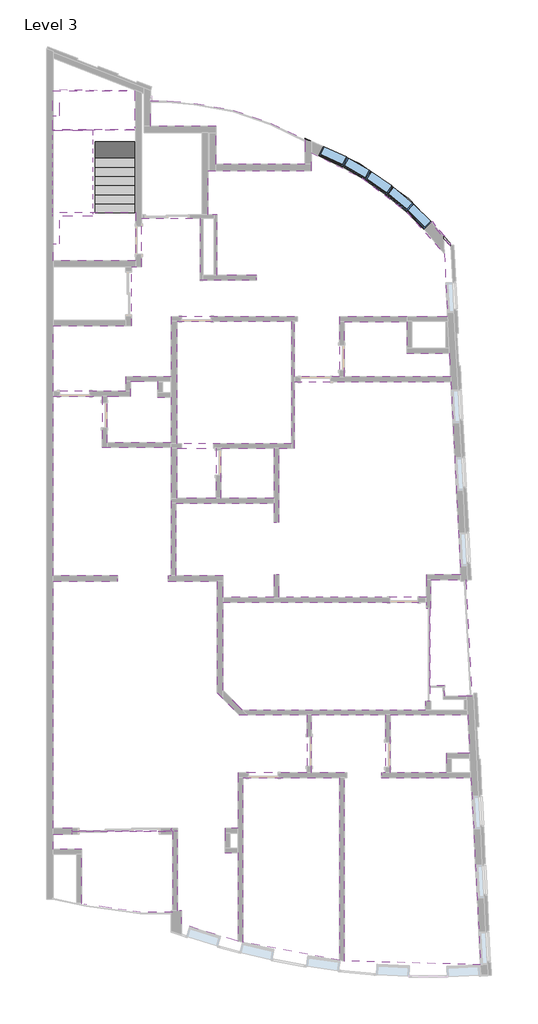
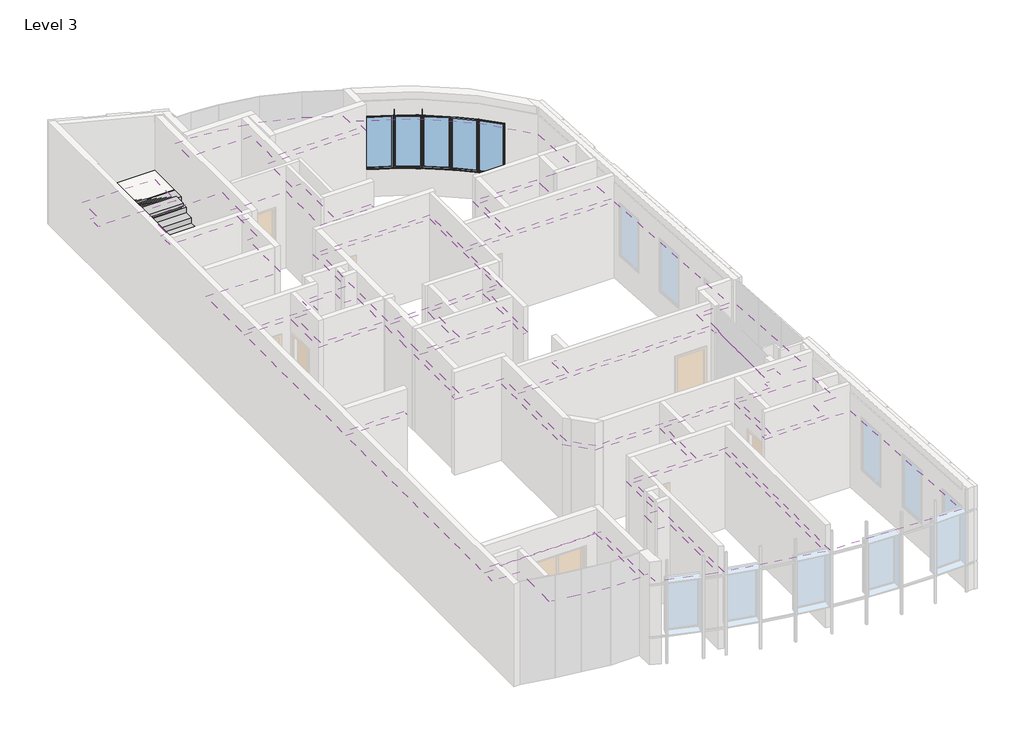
# One storey, part 5 of 5: 19 coverings, 5 windows, 2 proxies, 2 stair flights, 1 slab.
"""IFC4 building model written with IfcOpenShell, lengths in millimetres."""

import ifcopenshell
import ifcopenshell.guid

model = None  # the IFC model being written
_history = None  # IfcOwnerHistory: only IFC2X3 demands one
_inside = {}  # id of a spatial element -> (the spatial element, [elements in it])
_under = {}  # id of a project, library or spatial element -> (it, [spatial elements below it])
_declared = {}  # id of a project -> (the project, [libraries it declares])
_typed = {}  # id of a type object -> (the type object, [elements of that type])
_made_of = {}  # id of a material, layer set ... -> (it, [elements and type objects made of it])


def new_model(schema):
    """Start an empty IFC model of exactly this schema.

    Asked for "IFC4X3", IfcOpenShell would pick the latest addendum, in which some entities
    have other attributes; the version numbers below select the first issue.
    IFC2X3 requires an IfcOwnerHistory on every rooted entity: one is made here for all.
    """
    global model, _history
    if schema == "IFC4X3":
        model = ifcopenshell.file(schema_version=(4, 3, 0, 0))
    else:
        model = ifcopenshell.file(schema=schema)
    _inside.clear()
    _under.clear()
    _declared.clear()
    _typed.clear()
    _made_of.clear()
    _history = None
    if model.schema == "IFC2X3":
        org = make("IfcOrganization", Name="unknown")
        user = make(
            "IfcPersonAndOrganization",
            ThePerson=make("IfcPerson", FamilyName="unknown"),
            TheOrganization=org,
        )
        app = make(
            "IfcApplication",
            ApplicationDeveloper=org,
            Version="unknown",
            ApplicationFullName="unknown",
            ApplicationIdentifier="unknown",
        )
        _history = make(
            "IfcOwnerHistory",
            OwningUser=user,
            OwningApplication=app,
            ChangeAction="ADDED",
            CreationDate=0,
        )
    return model


def make(cls, **values):
    """One entity of the class cls with the attributes given. An attribute that is None is left unset."""
    return model.create_entity(
        cls, **{name: value for name, value in values.items() if value is not None}
    )


def rooted(cls, **values):
    """An entity with a GlobalId (a new one), such as an element, a storey or a relation."""
    return make(cls, GlobalId=ifcopenshell.guid.new(), OwnerHistory=_history, **values)


def si_unit(unit_type, name, prefix=None):
    """IfcSIUnit, for example si_unit("LENGTHUNIT", "METRE", prefix="MILLI")."""
    return make("IfcSIUnit", UnitType=unit_type, Prefix=prefix, Name=name)


def assignment(units):
    """IfcUnitAssignment: the units of a project."""
    return None if units is None else make("IfcUnitAssignment", Units=units)


def point(xyz):
    """IfcCartesianPoint."""
    return None if xyz is None else make("IfcCartesianPoint", Coordinates=xyz)


def direction(xyz):
    """IfcDirection."""
    return None if xyz is None else make("IfcDirection", DirectionRatios=xyz)


def frame(location, z_axis=None, x_axis=None):
    """IfcAxis2Placement3D, a coordinate frame: its origin and axes. An axis left out is left unset."""
    return make(
        "IfcAxis2Placement3D",
        Location=point(location),
        Axis=direction(z_axis),
        RefDirection=direction(x_axis),
    )


def frame_2d(location, x_axis=None):
    """IfcAxis2Placement2D, a coordinate frame in the plane: its origin and x axis."""
    return make(
        "IfcAxis2Placement2D", Location=point(location), RefDirection=direction(x_axis)
    )


def origin():
    """The frame at (0, 0, 0) with its axes left unset."""
    return frame((0.0, 0.0, 0.0))


def place(relative_to, where):
    """IfcLocalPlacement: puts the frame where relative to a parent placement (None: the world)."""
    return make(
        "IfcLocalPlacement", PlacementRelTo=relative_to, RelativePlacement=where
    )


def context(
    kind, dimensions, precision=None, world=None, true_north=None, identifier=None
):
    """IfcGeometricRepresentationContext, for example the 3D "Model" context."""
    return make(
        "IfcGeometricRepresentationContext",
        ContextIdentifier=identifier,
        ContextType=kind,
        CoordinateSpaceDimension=dimensions,
        Precision=precision,
        WorldCoordinateSystem=world,
        TrueNorth=true_north,
    )


def project(units=None, contexts=None):
    """IfcProject with its units and contexts."""
    return rooted(
        "IfcProject",
        Name="project",
        RepresentationContexts=contexts,
        UnitsInContext=assignment(units),
    )


def spatial(cls, under=None, at=None, **own):
    """A site, building, storey or space (cls), placed at a placement, below another one or the project."""
    s = rooted(cls, ObjectPlacement=at, **own)
    if under is not None:
        _under.setdefault(under.id(), (under, []))[1].append(s)
    return s


def polyline(points):
    """IfcPolyline through the points."""
    return make("IfcPolyline", Points=[point(p) for p in points])


def circle_curve(where, radius):
    """IfcCircle in the frame where."""
    return make("IfcCircle", Position=where, Radius=radius)


def trimmed(basis, trim1, trim2, sense, master):
    """IfcTrimmedCurve: the piece of a basis curve between two trims."""
    return make(
        "IfcTrimmedCurve",
        BasisCurve=basis,
        Trim1=trim1,
        Trim2=trim2,
        SenseAgreement=sense,
        MasterRepresentation=master,
    )


def segment(curve, same_sense, transition):
    """IfcCompositeCurveSegment."""
    return make(
        "IfcCompositeCurveSegment",
        Transition=transition,
        SameSense=same_sense,
        ParentCurve=curve,
    )


def composite_curve(segments, self_intersect=None):
    """IfcCompositeCurve: segments joined end to end."""
    return make("IfcCompositeCurve", Segments=segments, SelfIntersect=self_intersect)


def outline(outer, holes=None, kind="AREA"):
    """IfcArbitraryClosedProfileDef: a profile drawn as a closed curve; with holes, ...WithVoids."""
    if holes is None:
        return make("IfcArbitraryClosedProfileDef", ProfileType=kind, OuterCurve=outer)
    return make(
        "IfcArbitraryProfileDefWithVoids",
        ProfileType=kind,
        OuterCurve=outer,
        InnerCurves=holes,
    )


def extrude(swept, where, along, depth):
    """IfcExtrudedAreaSolid: the profile swept, set in the frame where, extruded along a direction by depth."""
    return make(
        "IfcExtrudedAreaSolid",
        SweptArea=swept,
        Position=where,
        ExtrudedDirection=direction(along),
        Depth=depth,
    )


def faces_of(points, faces, orient=None, outer=None):
    """IfcFace entities. A face is a list of loops; a loop is a list of indices into points, from 0.

    orient and outer hold one flag for each loop. By default every Orientation is true, the
    first loop of a face is its IfcFaceOuterBound and the others are IfcFaceBound.
    """
    made = []
    for i, loops in enumerate(faces):
        bounds = []
        for j, loop in enumerate(loops):
            is_outer = j == 0 if outer is None else outer[i][j]
            bounds.append(
                make(
                    "IfcFaceOuterBound" if is_outer else "IfcFaceBound",
                    Bound=make("IfcPolyLoop", Polygon=[points[k] for k in loop]),
                    Orientation=True if orient is None else orient[i][j],
                )
            )
        made.append(make("IfcFace", Bounds=bounds))
    return made


def faceted_brep(points, faces, orient=None, outer=None, voids=None):
    """IfcFacetedBrep: a solid bounded by flat faces; with voids (closed shells), ...WithVoids."""
    shared = [point(p) for p in points]
    hull = make("IfcClosedShell", CfsFaces=faces_of(shared, faces, orient, outer))
    if voids is None:
        return make("IfcFacetedBrep", Outer=hull)
    return make(
        "IfcFacetedBrepWithVoids",
        Outer=hull,
        Voids=[
            make(cls, CfsFaces=faces_of(shared, fs, o, b)) for cls, fs, o, b in voids
        ],
    )


def shape(context_of_items, identifier, shape_type, items):
    """IfcShapeRepresentation: the items that make up one representation, for example the "Body"."""
    return make(
        "IfcShapeRepresentation",
        ContextOfItems=context_of_items,
        RepresentationIdentifier=identifier,
        RepresentationType=shape_type,
        Items=items,
    )


def source(mapping_origin, context_of_items, identifier, shape_type, items):
    """IfcRepresentationMap: a shape defined once, which mapped items show again and again."""
    return make(
        "IfcRepresentationMap",
        MappingOrigin=mapping_origin,
        MappedRepresentation=shape(context_of_items, identifier, shape_type, items),
    )


def transform(
    local_origin,
    x_axis=None,
    y_axis=None,
    z_axis=None,
    scale=None,
    scale2=None,
    scale3=None,
    uniform=True,
):
    """IfcCartesianTransformationOperator3D, or its non-uniform kind. x_axis, y_axis, z_axis: its Axis1, 2, 3."""
    if uniform:
        return make(
            "IfcCartesianTransformationOperator3D",
            Axis1=direction(x_axis),
            Axis2=direction(y_axis),
            LocalOrigin=point(local_origin),
            Scale=scale,
            Axis3=direction(z_axis),
        )
    return make(
        "IfcCartesianTransformationOperator3DnonUniform",
        Axis1=direction(x_axis),
        Axis2=direction(y_axis),
        LocalOrigin=point(local_origin),
        Scale=scale,
        Axis3=direction(z_axis),
        Scale2=scale2,
        Scale3=scale3,
    )


def mapped(mapping_source, mapping_target):
    """IfcMappedItem: shows the shape of a source again, moved by a transform."""
    return make(
        "IfcMappedItem", MappingSource=mapping_source, MappingTarget=mapping_target
    )


def made_of(thing, what):
    """Note that an element or type object is made of a material, layer set ...; save() writes the relation."""
    if what is not None:
        _made_of.setdefault(what.id(), (what, []))[1].append(thing)
    return thing


def element(
    cls,
    number,
    at=None,
    inside=None,
    cuts=None,
    type_object=None,
    material=None,
    context=None,
    identifier="Body",
    shape_type=None,
    held_by="IfcProductDefinitionShape",
    body=None,
    shapes=None,
    **own,
):
    """One element of the class cls, such as IfcWall. Its Tag is "e" and its number.

    at: its placement. inside: the storey or other place that contains it. cuts: it is an
    opening in that element (IfcRelVoidsElement). A single representation is given by context,
    identifier, shape_type and body (its items); several are given by shapes. held_by: the class
    of the entity that holds the representations. save() writes the other relations.
    """
    e = rooted(cls, Tag="e%d" % number, ObjectPlacement=at, **own)
    if body is not None:
        shapes = [shape(context, identifier, shape_type, body)]
    if shapes is not None:
        e.Representation = make(held_by, Representations=shapes)
    if inside is not None:
        _inside.setdefault(inside.id(), (inside, []))[1].append(e)
    if cuts is not None:
        rooted(
            "IfcRelVoidsElement", RelatingBuildingElement=cuts, RelatedOpeningElement=e
        )
    if type_object is not None:
        _typed.setdefault(type_object.id(), (type_object, []))[1].append(e)
    return made_of(e, material)


def aggregate(whole, parts):
    """IfcRelAggregates: a whole, such as a stair, and the parts it consists of."""
    return rooted("IfcRelAggregates", RelatingObject=whole, RelatedObjects=parts)


def save(model, path):
    """Write the relations noted so far, then the file.

    IfcRelAggregates (storeys below a building ...), IfcRelContainedInSpatialStructure (elements
    in a storey), IfcRelDefinesByType, IfcRelAssociatesMaterial and IfcRelDeclares: one each for
    every whole, place, type object, material and project.
    """
    for whole, parts in _under.values():
        aggregate(whole, parts)
    for where, things in _inside.values():
        rooted(
            "IfcRelContainedInSpatialStructure",
            RelatedElements=things,
            RelatingStructure=where,
        )
    for kind, things in _typed.values():
        rooted("IfcRelDefinesByType", RelatedObjects=things, RelatingType=kind)
    for what, things in _made_of.values():
        rooted("IfcRelAssociatesMaterial", RelatedObjects=things, RelatingMaterial=what)
    for by, libraries in _declared.values():
        rooted("IfcRelDeclares", RelatingContext=by, RelatedDefinitions=libraries)
    model.write(path)


def m_fixed_0815_x_1830mm_2_6a11e188(model_context):
    return source(origin(), model_context, "Body", "SweptSolid", [
        extrude(outline(polyline([(-344.5, 138.0), (344.5, 138.0), (344.5, 126.0), (-344.5, 126.0), (-344.5, 138.0)])), frame((0.0, 0.0, 368.0), z_axis=(0.0, 0.0, 1.0), x_axis=(1.0, 0.0, 0.0)), (0.0, 0.0, 1.0), 1704.0),
        extrude(outline(polyline([(2116.0, -388.5), (324.0, -388.5), (324.0, 388.5), (2116.0, 388.5), (2116.0, -388.5)]), holes=[polyline([(2072.0, -344.5), (2072.0, 344.5), (368.0, 344.5), (368.0, -344.5), (2072.0, -344.5)])]), frame((0.0, 110.0, 0.0), z_axis=(0.0, 1.0, 0.0), x_axis=(0.0, 0.0, 1.0)), (0.0, 0.0, 1.0), 44.0),
        extrude(outline(polyline([(2135.0, -407.5), (305.0, -407.5), (305.0, 407.5), (2135.0, 407.5), (2135.0, -407.5)]), holes=[polyline([(2116.0, -388.5), (2116.0, 388.5), (324.0, 388.5), (324.0, -388.5), (2116.0, -388.5)])]), frame((0.0, 110.0, 0.0), z_axis=(0.0, 1.0, 0.0), x_axis=(0.0, 0.0, 1.0)), (0.0, 0.0, 1.0), 63.0),
        extrude(outline(polyline([(2135.0, -407.5), (305.0, -407.5), (305.0, 407.5), (2135.0, 407.5), (2135.0, -407.5)]), holes=[polyline([(2103.0, -375.5), (2103.0, 375.5), (337.0, 375.5), (337.0, -375.5), (2103.0, -375.5)])]), frame((0.0, -147.0, 0.0), z_axis=(0.0, 1.0, 0.0), x_axis=(0.0, 0.0, 1.0)), (0.0, 0.0, 1.0), 257.0),
    ])


model = new_model("IFC4")

# Units and contexts
model_context = context("Model", 3, world=origin())
ifc_project = project(units=[si_unit("LENGTHUNIT", "METRE", prefix="MILLI")], contexts=[model_context])

# Site, building, storey
site = spatial("IfcSite", under=ifc_project)
building = spatial("IfcBuilding", under=site)
storey = spatial("IfcBuildingStorey", under=building, Name="Level 3", Elevation=11500.0)

# Proxies
placement = place(None, origin())
element("IfcBuildingElementProxy", 1, Name="Reveal", ObjectType="Reveal", at=placement, inside=storey, context=model_context, shape_type="SweptSolid", body=[
    extrude(outline(composite_curve([segment(trimmed(circle_curve(frame_2d((4535.6080259, 3399.2748166)), 9525.0), [point((12124.5482533, 9155.45508))], [point((7662.3072504, 12396.4619859))], True, "CARTESIAN"), True, "CONTINUOUS"), segment(polyline([(7662.3072504, 12396.4619859), (7662.3072504, 12449.3785154)]), True, "CONTINUOUS"), segment(trimmed(circle_curve(frame_2d((4535.6080259, 3399.2748166)), 9575.0), [point((7662.3072504, 12449.3785154))], [point((12120.0590293, 9243.6505726))], False, "CARTESIAN"), True, "CONTINUOUS"), segment(polyline([(12120.0590293, 9243.6505726), (12124.5482533, 9155.45508)]), True, "CONTINUOUS")], self_intersect=False)), frame((0.0, 0.0, 12375.0), z_axis=(0.0, 0.0, 1.0), x_axis=(1.0, 0.0, 0.0)), (0.0, 0.0, 1.0), 50.0),
])
element("IfcBuildingElementProxy", 2, Name="Reveal", ObjectType="Reveal", at=placement, inside=storey, context=model_context, shape_type="SweptSolid", body=[
    extrude(outline(composite_curve([segment(trimmed(circle_curve(frame_2d((4535.6080259, 3399.2748166)), 9525.0), [point((12124.5482533, 9155.45508))], [point((11527.266896, 9867.8396686))], True, "CARTESIAN"), True, "CONTINUOUS"), segment(polyline([(11527.266896, 9867.8396686), (11562.5143185, 9903.3668328)]), True, "CONTINUOUS"), segment(trimmed(circle_curve(frame_2d((4535.6080259, 3399.2748166)), 9575.0), [point((11562.5143185, 9903.3668328))], [point((12120.0590293, 9243.6505726))], False, "CARTESIAN"), True, "CONTINUOUS"), segment(polyline([(12120.0590293, 9243.6505726), (12124.5482533, 9155.45508)]), True, "CONTINUOUS")], self_intersect=False)), frame((0.0, 0.0, 14195.0), z_axis=(0.0, 0.0, 1.0), x_axis=(1.0, 0.0, 0.0)), (0.0, 0.0, 1.0), 50.0),
    extrude(outline(composite_curve([segment(trimmed(circle_curve(frame_2d((4535.6080259, 3399.2748166)), 9525.0), [point((8210.516289, 12186.8042907))], [point((7662.3072504, 12396.4619859))], True, "CARTESIAN"), True, "CONTINUOUS"), segment(polyline([(7662.3072504, 12396.4619859), (7662.3072504, 12449.3785154)]), True, "CONTINUOUS"), segment(trimmed(circle_curve(frame_2d((4535.6080259, 3399.2748166)), 9575.0), [point((7662.3072504, 12449.3785154))], [point((8231.7823405, 12232.1067767))], False, "CARTESIAN"), True, "CONTINUOUS"), segment(polyline([(8231.7823405, 12232.1067767), (8210.516289, 12186.8042907)]), True, "CONTINUOUS")], self_intersect=False)), frame((0.0, 0.0, 14195.0), z_axis=(0.0, 0.0, 1.0), x_axis=(1.0, 0.0, 0.0)), (0.0, 0.0, 1.0), 50.0),
    extrude(outline(composite_curve([segment(trimmed(circle_curve(frame_2d((4535.6080259, 3399.2748166)), 9525.0), [point((8957.9716481, 11835.4069275))], [point((8948.2742549, 11840.4833647))], True, "CARTESIAN"), True, "CONTINUOUS"), segment(polyline([(8948.2742549, 11840.4833647), (8969.5403064, 11885.7858507)]), True, "CONTINUOUS"), segment(trimmed(circle_curve(frame_2d((4535.6080259, 3399.2748166)), 9575.0), [point((8969.5403064, 11885.7858507))], [point((8983.0823429, 11878.6968016))], False, "CARTESIAN"), True, "CONTINUOUS"), segment(polyline([(8983.0823429, 11878.6968016), (8957.9716481, 11835.4069275)]), True, "CONTINUOUS")], self_intersect=False)), frame((0.0, 0.0, 14195.0), z_axis=(0.0, 0.0, 1.0), x_axis=(1.0, 0.0, 0.0)), (0.0, 0.0, 1.0), 50.0),
    extrude(outline(composite_curve([segment(trimmed(circle_curve(frame_2d((4535.6080259, 3399.2748166)), 9525.0), [point((9668.2107942, 11423.1151579))], [point((9662.9539178, 11426.4753937))], True, "CARTESIAN"), True, "CONTINUOUS"), segment(polyline([(9662.9539178, 11426.4753937), (9688.0646126, 11469.7652678)]), True, "CONTINUOUS"), segment(trimmed(circle_curve(frame_2d((4535.6080259, 3399.2748166)), 9575.0), [point((9688.0646126, 11469.7652678))], [point((9696.9570845, 11464.0811314))], False, "CARTESIAN"), True, "CONTINUOUS"), segment(polyline([(9696.9570845, 11464.0811314), (9668.2107942, 11423.1151579)]), True, "CONTINUOUS")], self_intersect=False)), frame((0.0, 0.0, 14195.0), z_axis=(0.0, 0.0, 1.0), x_axis=(1.0, 0.0, 0.0)), (0.0, 0.0, 1.0), 50.0),
    extrude(outline(composite_curve([segment(trimmed(circle_curve(frame_2d((4535.6080259, 3399.2748166)), 9525.0), [point((10340.2860207, 10951.1844014))], [point((10335.3479854, 10954.9773917))], True, "CARTESIAN"), True, "CONTINUOUS"), segment(polyline([(10335.3479854, 10954.9773917), (10364.0942756, 10995.9433652)]), True, "CONTINUOUS"), segment(trimmed(circle_curve(frame_2d((4535.6080259, 3399.2748166)), 9575.0), [point((10364.0942756, 10995.9433652))], [point((10372.454166, 10989.521989))], False, "CARTESIAN"), True, "CONTINUOUS"), segment(polyline([(10372.454166, 10989.521989), (10340.2860207, 10951.1844014)]), True, "CONTINUOUS")], self_intersect=False)), frame((0.0, 0.0, 14195.0), z_axis=(0.0, 0.0, 1.0), x_axis=(1.0, 0.0, 0.0)), (0.0, 0.0, 1.0), 50.0),
])

# Coverings
element("IfcCovering", 3, ObjectType="600 x 600mm Grid", at=placement, inside=storey, context=model_context, shape_type="SweptSolid", body=[
    extrude(outline(polyline([(3749.9578779, 6844.2927825), (7249.9578779, 6844.2927825), (7249.9578779, 3106.8778064), (3749.9578779, 3106.8778064), (3749.9578779, 6844.2927825)])), frame((0.0, 0.0, 14100.0), z_axis=(0.0, 0.0, 1.0), x_axis=(1.0, 0.0, 0.0)), (0.0, 0.0, 1.0), 52.0),
])
element("IfcCovering", 4, ObjectType="600 x 600mm Grid", at=placement, inside=storey, context=model_context, shape_type="SweptSolid", body=[
    extrude(outline(polyline([(10788.049349, 5875.0705769), (12091.2636332, 5875.0705769), (12128.2063311, 5149.2927029), (8869.9578779, 5149.2927029), (8869.9578779, 6830.3684627), (10788.049349, 6830.3684627), (10788.049349, 5875.0705769)])), frame((0.0, 0.0, 14100.0), z_axis=(0.0, 0.0, 1.0), x_axis=(1.0, 0.0, 0.0)), (0.0, 0.0, 1.0), 52.0),
])
element("IfcCovering", 5, ObjectType="600 x 600mm Grid", at=placement, inside=storey, context=model_context, shape_type="SweptSolid", body=[
    extrude(outline(composite_curve([segment(polyline([(10005.6168737, -7123.7981953), (12752.9168737, -7123.7981953), (13044.0399551, -12843.2151043)]), True, "CONTINUOUS"), segment(trimmed(circle_curve(frame_2d((11609.3245394, 10843.3737526)), 23730.0), [point((13044.0399551, -12843.2151043))], [point((8870.2907737, -12728.0198004))], False, "CARTESIAN"), True, "CONTINUOUS"), segment(polyline([(8870.2907737, -12728.0198004), (8870.2907737, -6973.7981953), (7870.2909314, -6973.7981953), (7870.2909314, -5198.7981953), (10130.2907737, -5198.7981953), (10130.2907737, -6973.7981953), (10005.6168737, -6973.7981953), (10005.6168737, -7123.7981953)]), True, "CONTINUOUS")], self_intersect=False)), frame((0.0, 0.0, 14100.0), z_axis=(0.0, 0.0, 1.0), x_axis=(1.0, 0.0, 0.0)), (0.0, 0.0, 1.0), 52.0),
])
element("IfcCovering", 6, ObjectType="600 x 600mm Grid", at=placement, inside=storey, context=model_context, shape_type="SweptSolid", body=[
    extrude(outline(polyline([(10280.2907737, -5198.7981953), (12654.9327714, -5198.7981953), (12714.7412494, -6373.7981953), (11997.4732011, -6373.7981953), (11997.4732011, -6973.7981953), (10280.2907737, -6973.7981953), (10280.2907737, -5198.7981953)])), frame((0.0, 0.0, 14100.0), z_axis=(0.0, 0.0, 1.0), x_axis=(1.0, 0.0, 0.0)), (0.0, 0.0, 1.0), 52.0),
])
element("IfcCovering", 7, ObjectType="600 x 600mm Grid", at=placement, inside=storey, context=model_context, shape_type="SweptSolid", body=[
    extrude(outline(polyline([(5089.9578779, 1426.8778064), (5089.9578779, 2956.8778064), (6719.9578779, 2956.8778064), (6719.9578779, 1426.8778064), (5089.9578779, 1426.8778064)])), frame((0.0, 0.0, 14100.0), z_axis=(0.0, 0.0, 1.0), x_axis=(1.0, 0.0, 0.0)), (0.0, 0.0, 1.0), 52.0),
])
element("IfcCovering", 8, ObjectType="600 x 600mm Grid", at=placement, inside=storey, context=model_context, shape_type="SweptSolid", body=[
    extrude(outline(polyline([(3569.9578779, 4516.8864855), (3569.9578779, 3136.8778064), (1599.9578776, 3136.8778064), (1599.9578776, 4556.8830582), (2319.9578779, 4556.8830582), (2319.9578779, 5006.8860701), (3149.9574416, 5006.8860701), (3149.9574416, 4516.8864855), (3569.9578779, 4516.8864855)])), frame((0.0, 0.0, 14100.0), z_axis=(0.0, 0.0, 1.0), x_axis=(1.0, 0.0, 0.0)), (0.0, 0.0, 1.0), 52.0),
])
element("IfcCovering", 9, ObjectType="600 x 600mm Grid", at=placement, inside=storey, context=model_context, shape_type="SweptSolid", body=[
    extrude(outline(composite_curve([segment(polyline([(11936.5482631, 8914.6155682), (12034.2942913, 6994.2927825), (10782.6929286, 6994.2927825), (10782.6929286, 6980.3684627), (8719.9578779, 6980.3684627), (8719.9578779, 5149.2927029), (7349.9578779, 5149.2927029), (7349.9578779, 6994.2927825), (3569.9578779, 6994.2927825), (3569.9578779, 5156.8860701), (2169.9578779, 5156.8860701), (2169.9578779, 4706.8830582), (-50.0421304, 4706.8830582), (-50.0421304, 6706.8748838), (2350.0654712, 6706.8748838), (2350.0654712, 8516.8748746), (2661.8607589, 8516.8748746), (2661.8607589, 10006.8748959), (4449.2779066, 10006.8748959), (4449.2779066, 8112.262158), (6174.9402277, 8112.262158), (6174.9402277, 8262.262158), (4979.9402277, 8262.262158), (4979.9402277, 10106.8748959), (4699.9587688, 10106.8748959), (4699.9587688, 11454.5991251), (7862.3072504, 11454.5991251), (7862.3072504, 12008.9189597)]), True, "CONTINUOUS"), segment(trimmed(circle_curve(frame_2d((4535.6080259, 3399.2748166)), 9230.0), [point((7862.3072504, 12008.9189597))], [point((11936.5482631, 8914.6155682))], False, "CARTESIAN"), True, "CONTINUOUS")], self_intersect=False)), frame((0.0, 0.0, 14100.0), z_axis=(0.0, 0.0, 1.0), x_axis=(1.0, 0.0, 0.0)), (0.0, 0.0, 1.0), 52.0),
])
element("IfcCovering", 10, ObjectType="600 x 600mm Grid", at=placement, inside=storey, context=model_context, shape_type="SweptSolid", body=[
    extrude(outline(composite_curve([segment(trimmed(circle_curve(frame_2d((11609.3245394, 10843.3737526)), 23730.0), [point((8720.2907737, -12710.1054788))], [point((5770.2907737, -12157.0302587))], False, "CARTESIAN"), True, "CONTINUOUS"), segment(polyline([(5770.2907737, -12157.0302587), (5770.2907737, -7123.7981953), (8720.2907737, -7123.7981953), (8720.2907737, -12710.1054788)]), True, "CONTINUOUS")], self_intersect=False)), frame((0.0, 0.0, 14100.0), z_axis=(0.0, 0.0, 1.0), x_axis=(1.0, 0.0, 0.0)), (0.0, 0.0, 1.0), 52.0),
])
element("IfcCovering", 11, ObjectType="600 x 600mm Grid", at=placement, inside=storey, context=model_context, shape_type="SweptSolid", body=[
    extrude(outline(composite_curve([segment(polyline([(-50.0421304, -8662.2362629), (-50.0421304, -1113.1221936), (1933.9578781, -1113.1221936), (1933.9578781, -933.1221936), (-50.0421304, -933.1221936), (-50.0421304, 4556.8830582), (1449.9578776, 4556.8830582), (1449.9578776, 2986.8778064), (3569.9578779, 2986.8778064), (3569.9578779, 1351.8778064), (3569.9578779, -933.1221936), (3473.9578779, -933.1221936), (3473.9578779, -1113.1221936), (4969.9578778, -1113.1221936), (4969.9578778, -4517.9715169), (5643.7897147, -5198.7981953), (7720.2909314, -5198.7981953), (7720.2909314, -6973.7981953), (5620.2907737, -6973.7981953), (5620.2907737, -8662.29082), (5223.5699518, -8662.29082), (5223.5699518, -9422.4272222), (5620.2907737, -9422.4272222), (5620.2907737, -12118.4287584)]), True, "CONTINUOUS"), segment(trimmed(circle_curve(frame_2d((11609.3245394, 10843.3737526)), 23730.0), [point((5620.2907737, -12118.4287584))], [point((3880.252741, -11592.6318887))], False, "CARTESIAN"), True, "CONTINUOUS"), segment(polyline([(3880.252741, -11592.6318887), (3880.252741, -11189.3160932), (3760.252741, -11189.3160932), (3760.252741, -8757.0181124), (3600.5670169, -8757.0181124), (3600.5670169, -8673.6141586), (3557.6788606, -8673.6141586), (3557.6788606, -8757.0181124), (529.9578696, -8757.0181124), (529.9578696, -8662.2362629), (-50.0421304, -8662.2362629)]), True, "CONTINUOUS")], self_intersect=False)), frame((0.0, 0.0, 14100.0), z_axis=(0.0, 0.0, 1.0), x_axis=(1.0, 0.0, 0.0)), (0.0, 0.0, 1.0), 52.0),
])
element("IfcCovering", 12, ObjectType="600 x 600mm Grid", at=placement, inside=storey, context=model_context, shape_type="SweptSolid", body=[
    extrude(outline(polyline([(-50.0421304, -9312.1185157), (-50.0421304, -8842.2362629), (529.9578696, -8842.2362629), (529.9578696, -8757.0181124), (3610.252741, -8757.0181124), (3610.252741, -11236.9456492), (2620.252741, -11236.9456492), (1746.4600136, -11114.1420899), (974.05092, -11005.5870712), (829.9393362, -10974.9552084), (829.9393362, -9312.1185157), (-50.0421304, -9312.1185157)])), frame((0.0, 0.0, 14100.0), z_axis=(0.0, 0.0, 1.0), x_axis=(1.0, 0.0, 0.0)), (0.0, 0.0, 1.0), 52.0),
])
element("IfcCovering", 13, ObjectType="600 x 600mm Grid", at=placement, inside=storey, context=model_context, shape_type="SweptSolid", body=[
    extrude(outline(polyline([(11529.9578778, -1933.9547288), (11529.9578778, -1053.8603265), (12594.2109056, -1053.8603265), (12655.9511875, -2266.8126319), (12714.9198118, -3425.3128267), (12776.048406, -4626.2478876), (11949.9334783, -4624.2050678), (11933.314431, -4297.7065316), (11490.9685725, -4320.222304), (11490.9685725, -1933.9547288), (11529.9578778, -1933.9547288)])), frame((0.0, 0.0, 14100.0), z_axis=(0.0, 0.0, 1.0), x_axis=(1.0, 0.0, 0.0)), (0.0, 0.0, 1.0), 52.0),
])
element("IfcCovering", 14, ObjectType="600 x 600mm Grid", at=placement, inside=storey, context=model_context, shape_type="SweptSolid", body=[
    extrude(outline(polyline([(5149.9578778, -4443.9569428), (5149.9578778, -1753.9547298), (11379.9578778, -1753.9547298), (11379.9578778, -1933.9547288), (11490.9685725, -1933.9547288), (11490.9685725, -4783.8440392), (11349.9578778, -4783.8440392), (11349.9578778, -5048.7981953), (5748.5849662, -5048.7981953), (5149.9578778, -4443.9569428)])), frame((0.0, 0.0, 14100.0), z_axis=(0.0, 0.0, 1.0), x_axis=(1.0, 0.0, 0.0)), (0.0, 0.0, 1.0), 52.0),
])
element("IfcCovering", 15, ObjectType="600 x 600mm Grid", at=placement, inside=storey, context=model_context, shape_type="SweptSolid", body=[
    extrude(outline(polyline([(7349.9578779, 2956.8778064), (7349.9578779, 4999.2927029), (12135.8414559, 4999.2927029), (12436.3168588, -903.8603265), (11379.9578778, -903.8603265), (11379.9578778, -1603.9547298), (6869.9578779, -1603.9547298), (6869.9578779, -903.9547298), (6719.9578779, -903.9547298), (6719.9578779, -1603.9547298), (5149.9578778, -1603.9547298), (5149.9578778, -933.1221936), (3719.9578779, -933.1221936), (3719.9578779, 1276.8778064), (6719.9578779, 1276.8778064), (6719.9578779, 696.0452702), (6869.9578779, 696.0452702), (6869.9578779, 2956.8778064), (7349.9578779, 2956.8778064)])), frame((0.0, 0.0, 14100.0), z_axis=(0.0, 0.0, 1.0), x_axis=(1.0, 0.0, 0.0)), (0.0, 0.0, 1.0), 52.0),
])
element("IfcCovering", 16, ObjectType="600 x 600mm Grid", at=placement, inside=storey, context=model_context, shape_type="SweptSolid", body=[
    extrude(outline(polyline([(3749.9578779, 1426.8778064), (3749.9578779, 2956.8778064), (4939.9578779, 2956.8778064), (4939.9578779, 1426.8778064), (3749.9578779, 1426.8778064)])), frame((0.0, 0.0, 14100.0), z_axis=(0.0, 0.0, 1.0), x_axis=(1.0, 0.0, 0.0)), (0.0, 0.0, 1.0), 52.0),
])
element("IfcCovering", 17, ObjectType="600 x 600mm Grid", at=placement, inside=storey, context=model_context, shape_type="SweptSolid", body=[
    extrude(outline(polyline([(7662.3072504, 12409.1006238), (7662.3072504, 11654.5991251), (4949.6116933, 11654.5991251), (4949.6116933, 12811.9409286), (2939.9587442, 12811.9409286), (2939.9587442, 13599.3570533), (3438.1784244, 13599.3570533), (4275.7806873, 13521.2545862), (5477.246146, 13309.4038095), (6630.7788082, 12912.210661), (7662.3072504, 12409.1006238)])), frame((0.0, 0.0, 14100.0), z_axis=(0.0, 0.0, 1.0), x_axis=(1.0, 0.0, 0.0)), (0.0, 0.0, 1.0), 52.0),
])
element("IfcCovering", 18, ObjectType="600 x 600mm Grid", at=placement, inside=storey, context=model_context, shape_type="SweptSolid", body=[
    extrude(outline(composite_curve([segment(polyline([(11936.5482631, 8914.6155682), (12034.2942913, 6994.2927825), (10782.6929286, 6994.2927825), (10782.6929286, 6980.3684627), (8719.9578779, 6980.3684627), (8719.9578779, 5149.2927029), (7349.9578779, 5149.2927029), (7349.9578779, 6994.2927825), (3569.9578779, 6994.2927825), (3569.9578779, 5156.8860701), (2169.9578779, 5156.8860701), (2169.9578779, 4706.8830582), (-50.0421304, 4706.8830582), (-50.0421304, 6706.8748838), (2350.0654712, 6706.8748838), (2350.0654712, 8516.8748746), (2661.8607589, 8516.8748746), (2661.8607589, 10006.8748959), (4449.2779066, 10006.8748959), (4449.2779066, 8112.262158), (6174.9402277, 8112.262158), (6174.9402277, 8262.262158), (4979.9402277, 8262.262158), (4979.9402277, 10106.8748959), (4699.9587688, 10106.8748959), (4699.9587688, 11454.5991251), (7862.3072504, 11454.5991251), (7862.3072504, 12008.9189597)]), True, "CONTINUOUS"), segment(trimmed(circle_curve(frame_2d((4535.6080259, 3399.2748166)), 9230.0), [point((7862.3072504, 12008.9189597))], [point((11936.5482631, 8914.6155682))], False, "CARTESIAN"), True, "CONTINUOUS")], self_intersect=False)), frame((0.0, 0.0, 14100.0), z_axis=(0.0, 0.0, 1.0), x_axis=(1.0, 0.0, 0.0)), (0.0, 0.0, 1.0), 52.0),
])
element("IfcCovering", 19, ObjectType="600 x 600mm Grid", at=placement, inside=storey, context=model_context, shape_type="SweptSolid", body=[
    extrude(outline(composite_curve([segment(polyline([(11936.5482631, 8914.6155682), (12034.2942913, 6994.2927825), (10782.6929286, 6994.2927825), (10782.6929286, 6980.3684627), (8719.9578779, 6980.3684627), (8719.9578779, 5149.2927029), (7349.9578779, 5149.2927029), (7349.9578779, 6994.2927825), (3569.9578779, 6994.2927825), (3569.9578779, 5156.8860701), (2169.9578779, 5156.8860701), (2169.9578779, 4706.8830582), (-50.0421304, 4706.8830582), (-50.0421304, 6706.8748838), (2350.0654712, 6706.8748838), (2350.0654712, 8516.8748746), (2661.8607589, 8516.8748746), (2661.8607589, 10006.8748959), (4449.2779066, 10006.8748959), (4449.2779066, 8112.262158), (6174.9402277, 8112.262158), (6174.9402277, 8262.262158), (4979.9402277, 8262.262158), (4979.9402277, 10106.8748959), (4699.9587688, 10106.8748959), (4699.9587688, 11454.5991251), (7862.3072504, 11454.5991251), (7862.3072504, 12008.9189597)]), True, "CONTINUOUS"), segment(trimmed(circle_curve(frame_2d((4535.6080259, 3399.2748166)), 9230.0), [point((7862.3072504, 12008.9189597))], [point((11936.5482631, 8914.6155682))], False, "CARTESIAN"), True, "CONTINUOUS")], self_intersect=False)), frame((0.0, 0.0, 14100.0), z_axis=(0.0, 0.0, 1.0), x_axis=(1.0, 0.0, 0.0)), (0.0, 0.0, 1.0), 52.0),
])
element("IfcCovering", 20, ObjectType="600 x 600mm Grid", at=placement, inside=storey, context=model_context, shape_type="SweptSolid", body=[
    extrude(outline(polyline([(2481.8607589, 10179.4957281), (2481.8607589, 8696.8748746), (-50.0421304, 8696.8748746), (-50.0421304, 9219.4957281), (149.9709975, 9219.4957281), (149.9709975, 10179.4957281), (2481.8607589, 10179.4957281)])), frame((0.0, 0.0, 14650.0), z_axis=(0.0, 0.0, 1.0), x_axis=(1.0, 0.0, 0.0)), (0.0, 0.0, 1.0), 52.0),
])
element("IfcCovering", 21, ObjectType="600 x 600mm Grid", at=placement, inside=storey, context=model_context, shape_type="SweptSolid", body=[
    extrude(outline(polyline([(2454.9743495, 13908.8107611), (2454.9743495, 12688.8107611), (2439.3607589, 12688.8107611), (2439.3607589, 12708.2107611), (-17.3392411, 12708.2107611), (-17.3392411, 12688.8107611), (-60.0421304, 12688.8107611), (-60.0421304, 13143.419171), (149.9709975, 13143.419171), (149.9709975, 13943.419171), (2454.9743495, 13908.8107611)])), frame((0.0, 0.0, 12850.0), z_axis=(0.0, 0.0, 1.0), x_axis=(1.0, 0.0, 0.0)), (0.0, 0.0, 1.0), 52.0),
])

# Slab
element("IfcSlab", 22, ObjectType="220mm Thickness", at=placement, inside=storey, context=model_context, shape_type="Brep", body=[
    faceted_brep([(2454.9743495, 13908.8107611, 13157.8947368), (-60.0421304, 13908.8107611, 13157.8947368), (-60.0421304, 12688.8107611, 13157.8947368), (1159.9578696, 12688.8107611, 13157.8947368), (1233.3868495, 12688.8107611, 13157.8947368), (1233.3868495, 12798.8107611, 13157.8947368), (2454.9743495, 12798.8107611, 13157.8947368), (2454.9743495, 13908.8107611, 12937.8947368), (2454.9743495, 12798.8107611, 13047.8947368), (2454.9743495, 12698.8107611, 13047.8947368), (2454.9743495, 12698.8107611, 12937.8947368), (-60.0421304, 13908.8107611, 12937.8947368), (-60.0421304, 12688.8107611, 12937.8947368), (1159.9578696, 12688.8107611, 12937.8947368), (1233.3868495, 12688.8107611, 12937.8947368), (1233.3868495, 12698.8107611, 12937.8947368), (1233.3868495, 12798.8107611, 13047.8947368), (1233.3868495, 12698.8107611, 13047.8947368)], [[[0, 1, 2, 3, 4, 5, 6]], [[7, 0, 6, 8, 9, 10]], [[1, 0, 7, 11]], [[2, 1, 11, 12]], [[3, 2, 12, 13]], [[3, 13, 14, 4]], [[11, 7, 10, 15, 14, 13, 12]], [[16, 17, 9, 8]], [[5, 16, 8, 6]], [[16, 5, 4, 14, 15, 17]], [[9, 17, 15, 10]]]),
])

# Stair flights
element("IfcStairFlight", 23, ObjectType="190mm Depth", at=placement, inside=storey, context=model_context, shape_type="Brep", body=[
    faceted_brep([(1234.9743495, 10448.8107611, 11684.2105263), (1234.9743495, 10168.8107611, 11684.2105263), (2454.9743495, 10168.8107611, 11684.2105263), (2454.9743495, 10448.8107611, 11684.2105263), (1234.9743495, 10448.8107611, 11500.0), (1234.9743495, 10168.8107611, 11500.0), (2454.9743495, 10168.8107611, 11500.0), (2454.9743495, 10448.8107611, 11500.0), (1234.9743495, 10728.8107611, 11868.4210526), (1234.9743495, 10448.8107611, 11868.4210526), (2454.9743495, 10448.8107611, 11868.4210526), (2454.9743495, 10728.8107611, 11868.4210526), (1234.9743495, 10728.8107611, 11640.9897443), (1234.9743495, 10514.5063497, 11500.0), (2454.9743495, 10514.5063497, 11500.0), (2454.9743495, 10728.8107611, 11640.9897443), (1234.9743495, 11008.8107611, 12052.6315789), (1234.9743495, 10728.8107611, 12052.6315789), (2454.9743495, 10728.8107611, 12052.6315789), (2454.9743495, 11008.8107611, 12052.6315789), (1234.9743495, 11008.8107611, 11825.2002706), (2454.9743495, 11008.8107611, 11825.2002706), (1234.9743495, 11288.8107611, 12236.8421053), (1234.9743495, 11008.8107611, 12236.8421053), (2454.9743495, 11008.8107611, 12236.8421053), (2454.9743495, 11288.8107611, 12236.8421053), (1234.9743495, 11288.8107611, 12009.410797), (2454.9743495, 11288.8107611, 12009.410797), (1234.9743495, 11568.8107611, 12421.0526316), (1234.9743495, 11288.8107611, 12421.0526316), (2454.9743495, 11288.8107611, 12421.0526316), (2454.9743495, 11568.8107611, 12421.0526316), (1234.9743495, 11568.8107611, 12193.6213233), (2454.9743495, 11568.8107611, 12193.6213233), (1234.9743495, 11848.8107611, 12605.2631579), (1234.9743495, 11568.8107611, 12605.2631579), (2454.9743495, 11568.8107611, 12605.2631579), (2454.9743495, 11848.8107611, 12605.2631579), (1234.9743495, 11848.8107611, 12377.8318496), (2454.9743495, 11848.8107611, 12377.8318496), (1234.9743495, 12128.8107611, 12789.4736842), (1234.9743495, 11848.8107611, 12789.4736842), (2454.9743495, 11848.8107611, 12789.4736842), (2454.9743495, 12128.8107611, 12789.4736842), (1234.9743495, 12128.8107611, 12562.0423759), (2454.9743495, 12128.8107611, 12562.0423759), (1234.9743495, 12408.8107611, 12973.6842105), (1234.9743495, 12128.8107611, 12973.6842105), (2454.9743495, 12128.8107611, 12973.6842105), (2454.9743495, 12408.8107611, 12973.6842105), (1234.9743495, 12408.8107611, 12746.2529022), (2454.9743495, 12408.8107611, 12746.2529022), (1234.9743495, 12408.8107611, 13157.8947368), (2454.9743495, 12408.8107611, 13157.8947368), (2454.9743495, 12788.8107611, 13157.8947368), (1234.9743495, 12788.8107611, 13157.8947368), (1234.9743495, 12788.8107611, 13057.8947368), (1234.9743495, 12688.8107611, 13057.8947368), (1234.9743495, 12688.8107611, 12930.4634285), (2454.9743495, 12688.8107611, 12930.4634285), (2454.9743495, 12688.8107611, 13057.8947368), (2454.9743495, 12788.8107611, 13057.8947368)], [[[0, 1, 2, 3]], [[1, 0, 4, 5]], [[2, 1, 5, 6]], [[3, 2, 6, 7]], [[8, 9, 10, 11]], [[4, 0, 9, 8, 12, 13]], [[0, 3, 10, 9]], [[3, 7, 14, 15, 11, 10]], [[16, 17, 18, 19]], [[17, 16, 20, 12, 8]], [[8, 11, 18, 17]], [[19, 18, 11, 15, 21]], [[22, 23, 24, 25]], [[23, 22, 26, 20, 16]], [[16, 19, 24, 23]], [[25, 24, 19, 21, 27]], [[28, 29, 30, 31]], [[29, 28, 32, 26, 22]], [[22, 25, 30, 29]], [[31, 30, 25, 27, 33]], [[34, 35, 36, 37]], [[35, 34, 38, 32, 28]], [[28, 31, 36, 35]], [[37, 36, 31, 33, 39]], [[40, 41, 42, 43]], [[41, 40, 44, 38, 34]], [[34, 37, 42, 41]], [[43, 42, 37, 39, 45]], [[46, 47, 48, 49]], [[47, 46, 50, 44, 40]], [[40, 43, 48, 47]], [[49, 48, 43, 45, 51]], [[52, 53, 54, 55]], [[52, 55, 56, 57, 58, 50, 46]], [[46, 49, 53, 52]], [[54, 53, 49, 51, 59, 60, 61]], [[58, 57, 60, 59]], [[5, 4, 13, 14, 7, 6]], [[14, 13, 12, 20, 26, 32, 38, 44, 50, 58, 59, 51, 45, 39, 33, 27, 21, 15]], [[61, 60, 57, 56]], [[61, 56, 55, 54]]]),
])
element("IfcStairFlight", 24, ObjectType="190mm Depth", at=placement, inside=storey, context=model_context, shape_type="Brep", body=[
    faceted_brep([(1159.9578696, 12688.8107611, 13342.1052632), (-60.0421304, 12688.8107611, 13342.1052632), (-60.0421304, 12677.5151724, 13342.1052632), (-60.0421304, 12408.8107611, 13342.1052632), (1159.9578696, 12408.8107611, 13342.1052632), (1159.9578696, 12677.5151724, 13342.1052632), (1159.9578696, 12408.8107611, 13114.6739548), (1159.9578696, 12677.5151724, 12937.8947368), (1159.9578696, 12688.8107611, 12937.8947368), (-60.0421304, 12688.8107611, 12937.8947368), (-60.0421304, 12677.5151724, 12937.8947368), (-60.0421304, 12408.8107611, 13114.6739548), (1159.9578696, 12128.8107611, 13526.3157895), (1159.9578696, 12408.8107611, 13526.3157895), (-60.0421304, 12408.8107611, 13526.3157895), (-60.0421304, 12128.8107611, 13526.3157895), (1159.9578696, 12128.8107611, 13298.8844812), (-60.0421304, 12128.8107611, 13298.8844812), (1159.9578696, 11848.8107611, 13710.5263158), (1159.9578696, 12128.8107611, 13710.5263158), (-60.0421304, 12128.8107611, 13710.5263158), (-60.0421304, 11848.8107611, 13710.5263158), (1159.9578696, 11848.8107611, 13483.0950075), (-60.0421304, 11848.8107611, 13483.0950075), (1159.9578696, 11568.8107611, 13894.7368421), (1159.9578696, 11848.8107611, 13894.7368421), (-60.0421304, 11848.8107611, 13894.7368421), (-60.0421304, 11568.8107611, 13894.7368421), (1159.9578696, 11568.8107611, 13667.3055338), (-60.0421304, 11568.8107611, 13667.3055338), (1159.9578696, 11288.8107611, 14078.9473684), (1159.9578696, 11568.8107611, 14078.9473684), (-60.0421304, 11568.8107611, 14078.9473684), (-60.0421304, 11288.8107611, 14078.9473684), (1159.9578696, 11288.8107611, 13851.5160601), (-60.0421304, 11288.8107611, 13851.5160601), (1159.9578696, 11008.8107611, 14263.1578947), (1159.9578696, 11288.8107611, 14263.1578947), (-60.0421304, 11288.8107611, 14263.1578947), (-60.0421304, 11008.8107611, 14263.1578947), (1159.9578696, 11008.8107611, 14035.7265864), (-60.0421304, 11008.8107611, 14035.7265864), (1159.9578696, 10728.8107611, 14447.3684211), (1159.9578696, 11008.8107611, 14447.3684211), (-60.0421304, 11008.8107611, 14447.3684211), (-60.0421304, 10728.8107611, 14447.3684211), (1159.9578696, 10728.8107611, 14219.9371127), (-60.0421304, 10728.8107611, 14219.9371127), (1159.9578696, 10448.8107611, 14631.5789474), (1159.9578696, 10728.8107611, 14631.5789474), (-60.0421304, 10728.8107611, 14631.5789474), (-60.0421304, 10448.8107611, 14631.5789474), (1159.9578696, 10448.8107611, 14404.1476391), (-60.0421304, 10448.8107611, 14404.1476391), (1159.9578696, 10448.8107611, 14815.7894737), (-60.0421304, 10448.8107611, 14815.7894737), (-60.0421304, 10068.8107611, 14815.7894737), (1159.9578696, 10068.8107611, 14815.7894737), (1159.9578696, 10068.8107611, 14715.7894737), (1159.9578696, 10168.8107611, 14715.7894737), (1159.9578696, 10168.8107611, 14588.3581654), (-60.0421304, 10168.8107611, 14588.3581654), (-60.0421304, 10168.8107611, 14715.7894737), (-60.0421304, 10068.8107611, 14715.7894737)], [[[0, 1, 2, 3, 4, 5]], [[4, 6, 7, 8, 0, 5]], [[1, 0, 8, 9]], [[1, 9, 10, 11, 3, 2]], [[12, 13, 14, 15]], [[13, 12, 16, 6, 4]], [[14, 13, 4, 3]], [[15, 14, 3, 11, 17]], [[18, 19, 20, 21]], [[19, 18, 22, 16, 12]], [[20, 19, 12, 15]], [[21, 20, 15, 17, 23]], [[24, 25, 26, 27]], [[25, 24, 28, 22, 18]], [[26, 25, 18, 21]], [[27, 26, 21, 23, 29]], [[30, 31, 32, 33]], [[31, 30, 34, 28, 24]], [[32, 31, 24, 27]], [[33, 32, 27, 29, 35]], [[36, 37, 38, 39]], [[37, 36, 40, 34, 30]], [[38, 37, 30, 33]], [[39, 38, 33, 35, 41]], [[42, 43, 44, 45]], [[43, 42, 46, 40, 36]], [[44, 43, 36, 39]], [[45, 44, 39, 41, 47]], [[48, 49, 50, 51]], [[49, 48, 52, 46, 42]], [[50, 49, 42, 45]], [[51, 50, 45, 47, 53]], [[54, 55, 56, 57]], [[54, 57, 58, 59, 60, 52, 48]], [[55, 54, 48, 51]], [[56, 55, 51, 53, 61, 62, 63]], [[61, 60, 59, 62]], [[10, 7, 6, 16, 22, 28, 34, 40, 46, 52, 60, 61, 53, 47, 41, 35, 29, 23, 17, 11]], [[7, 10, 9, 8]], [[63, 62, 59, 58]], [[63, 58, 57, 56]]]),
])

# Windows
m_fixed_0815_x_1830mm_2_shape = m_fixed_0815_x_1830mm_2_6a11e188(model_context)
element("IfcWindow", 25, ObjectType="M_Fixed : 0815 x 1830mm 2", at=placement, inside=storey, context=model_context, shape_type="MappedRepresentation", body=[
    mapped(m_fixed_0815_x_1830mm_2_shape, transform((11152.0749385, 10068.2534159, 12095.0), x_axis=(-0.7098961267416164, 0.7043063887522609, 0.0), y_axis=(-0.7043063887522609, -0.7098961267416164, 0.0), z_axis=(0.0, 0.0, 1.0))),
])
element("IfcWindow", 26, ObjectType="M_Fixed : 0815 x 1830mm 2", at=placement, inside=storey, context=model_context, shape_type="MappedRepresentation", body=[
    mapped(m_fixed_0815_x_1830mm_2_shape, transform((10574.0486821, 10595.8117897, 12095.0), x_axis=(-0.7660533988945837, 0.6427769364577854, 0.0), y_axis=(-0.6427769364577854, -0.7660533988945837, 0.0), z_axis=(0.0, 0.0, 1.0))),
])
element("IfcWindow", 27, ObjectType="M_Fixed : 0815 x 1830mm 2", at=placement, inside=storey, context=model_context, shape_type="MappedRepresentation", body=[
    mapped(m_fixed_0815_x_1830mm_2_shape, transform((9931.7154506, 11089.1990441, 12095.0), x_axis=(-0.8185732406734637, 0.5744021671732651, 0.0), y_axis=(-0.5744021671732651, -0.8185732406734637, 0.0), z_axis=(0.0, 0.0, 1.0))),
])
element("IfcWindow", 28, ObjectType="M_Fixed : 0815 x 1830mm 2", at=placement, inside=storey, context=model_context, shape_type="MappedRepresentation", body=[
    mapped(m_fixed_0815_x_1830mm_2_shape, transform((9249.2599573, 11525.4298381, 12095.0), x_axis=(-0.8650089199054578, 0.5017564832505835, 0.0), y_axis=(-0.5017564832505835, -0.8650089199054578, 0.0), z_axis=(0.0, 0.0, 1.0))),
])
element("IfcWindow", 29, ObjectType="M_Fixed : 0815 x 1830mm 2", at=placement, inside=storey, context=model_context, shape_type="MappedRepresentation", body=[
    mapped(m_fixed_0815_x_1830mm_2_shape, transform((8527.5630763, 11903.2271236, 12095.0), x_axis=(-0.9052244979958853, 0.4249336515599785, 0.0), y_axis=(-0.4249336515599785, -0.9052244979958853, 0.0), z_axis=(0.0, 0.0, 1.0))),
])

save(model, "model.ifc")
